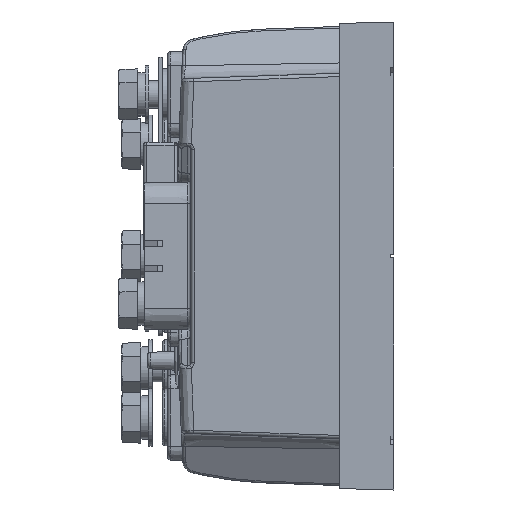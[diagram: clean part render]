
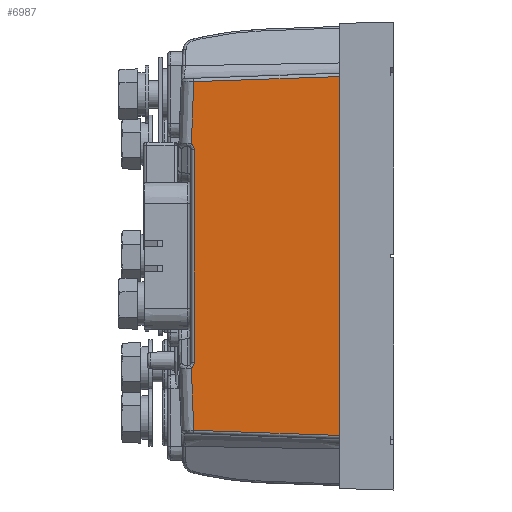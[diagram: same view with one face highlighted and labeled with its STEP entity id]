
A CAD part, left-side view. The second image highlights one B-rep face of the part: STEP entity #6987.
In plain terms, the highlighted planar face has unit normal (-0.999, 0.035, 0).
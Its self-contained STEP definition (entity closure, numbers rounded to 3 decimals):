
#465 = ORIENTED_EDGE ( 'NONE', *, *, #10351, .T. ) ;
#2721 = CARTESIAN_POINT ( 'NONE',  ( -14.599, 17.838, 52.688 ) ) ;
#3780 = EDGE_CURVE ( 'NONE', #12149, #7182, #23563, .T. ) ;
#4152 = LINE ( 'NONE', #17351, #22372 ) ;
#4421 = DIRECTION ( 'NONE',  ( 0., 0., 1. ) ) ;
#4553 = CARTESIAN_POINT ( 'NONE',  ( -13.17, 58.776, -51.255 ) ) ;
#4626 = EDGE_CURVE ( 'NONE', #22957, #12149, #46223, .T. ) ;
#4707 = CARTESIAN_POINT ( 'NONE',  ( -13.17, 58.776, 51.258 ) ) ;
#5673 = CARTESIAN_POINT ( 'NONE',  ( -13.146, 59.457, 32.859 ) ) ;
#6009 =( BOUNDED_CURVE ( )  B_SPLINE_CURVE ( 3, ( #5673, #20330, #20169, #41967 ),
 .UNSPECIFIED., .F., .F. ) 
 B_SPLINE_CURVE_WITH_KNOTS ( ( 4, 4 ),
 ( 3.652, 4.594 ),
 .UNSPECIFIED. ) 
 CURVE ( )  GEOMETRIC_REPRESENTATION_ITEM ( )  RATIONAL_B_SPLINE_CURVE ( ( 1., 0.928, 0.928, 1. ) ) 
 REPRESENTATION_ITEM ( '' )  );
#6359 = VERTEX_POINT ( 'NONE', #29432 ) ;
#6987 = ADVANCED_FACE ( 'NONE', ( #14014 ), #32542, .T. ) ;
#7092 = CARTESIAN_POINT ( 'NONE',  ( -14.663, 16., 0.002 ) ) ;
#7182 = VERTEX_POINT ( 'NONE', #19677 ) ;
#7268 = EDGE_CURVE ( 'NONE', #30345, #28872, #21418, .T. ) ;
#8133 = CARTESIAN_POINT ( 'NONE',  ( -13.17, 58.776, -51.255 ) ) ;
#8227 = CARTESIAN_POINT ( 'NONE',  ( -13.146, 59.457, -32.856 ) ) ;
#8391 = CARTESIAN_POINT ( 'NONE',  ( -13.152, 59.28, -38.991 ) ) ;
#8691 = VECTOR ( 'NONE', #24055, 1000. ) ;
#10153 = EDGE_CURVE ( 'NONE', #7182, #16612, #6009, .T. ) ;
#10162 = CARTESIAN_POINT ( 'NONE',  ( -13.164, 58.931, -32.461 ) ) ;
#10351 = EDGE_CURVE ( 'NONE', #6359, #22957, #33681, .T. ) ;
#12149 = VERTEX_POINT ( 'NONE', #4707 ) ;
#13817 = CARTESIAN_POINT ( 'NONE',  ( -13.17, 58.776, 51.258 ) ) ;
#14014 = FACE_OUTER_BOUND ( 'NONE', #20621, .T. ) ;
#14170 = DIRECTION ( 'NONE',  ( -0.035, -0.999, -0.035 ) ) ;
#16612 = VERTEX_POINT ( 'NONE', #28418 ) ;
#17351 = CARTESIAN_POINT ( 'NONE',  ( -14.665, 15.965, -52.75 ) ) ;
#17929 = DIRECTION ( 'NONE',  ( -0.035, -0.999, 0. ) ) ;
#18474 = ORIENTED_EDGE ( 'NONE', *, *, #3780, .T. ) ;
#19677 = CARTESIAN_POINT ( 'NONE',  ( -13.146, 59.457, 32.859 ) ) ;
#20169 = CARTESIAN_POINT ( 'NONE',  ( -13.175, 58.635, 31.859 ) ) ;
#20330 = CARTESIAN_POINT ( 'NONE',  ( -13.164, 58.931, 32.464 ) ) ;
#20621 = EDGE_LOOP ( 'NONE', ( #18474, #28219, #43759, #38932, #29152, #46241, #465, #33108 ) ) ;
#20979 = CARTESIAN_POINT ( 'NONE',  ( -13.175, 58.635, -31.175 ) ) ;
#21418 =( BOUNDED_CURVE ( )  B_SPLINE_CURVE ( 3, ( #8227, #8391, #22849, #4553 ),
 .UNSPECIFIED., .F., .T. ) 
 B_SPLINE_CURVE_WITH_KNOTS ( ( 4, 4 ),
 ( 3.171, 3.187 ),
 .UNSPECIFIED. ) 
 CURVE ( )  GEOMETRIC_REPRESENTATION_ITEM ( )  RATIONAL_B_SPLINE_CURVE ( ( 1., 1., 1., 1. ) ) 
 REPRESENTATION_ITEM ( '' )  );
#21486 = EDGE_CURVE ( 'NONE', #16612, #38394, #22767, .T. ) ;
#22372 = VECTOR ( 'NONE', #14170, 1000. ) ;
#22767 = LINE ( 'NONE', #42462, #31289 ) ;
#22849 = CARTESIAN_POINT ( 'NONE',  ( -13.16, 59.053, -45.124 ) ) ;
#22957 = VERTEX_POINT ( 'NONE', #26338 ) ;
#23308 =( BOUNDED_CURVE ( )  B_SPLINE_CURVE ( 3, ( #20979, #28297, #10162, #35588 ),
 .UNSPECIFIED., .F., .F. ) 
 B_SPLINE_CURVE_WITH_KNOTS ( ( 4, 4 ),
 ( 4.831, 5.773 ),
 .UNSPECIFIED. ) 
 CURVE ( )  GEOMETRIC_REPRESENTATION_ITEM ( )  RATIONAL_B_SPLINE_CURVE ( ( 1., 0.928, 0.928, 1. ) ) 
 REPRESENTATION_ITEM ( '' )  );
#23520 = CARTESIAN_POINT ( 'NONE',  ( -13.175, 58.635, -31.175 ) ) ;
#23563 =( BOUNDED_CURVE ( )  B_SPLINE_CURVE ( 3, ( #13817, #42912, #39265, #35590 ),
 .UNSPECIFIED., .F., .T. ) 
 B_SPLINE_CURVE_WITH_KNOTS ( ( 4, 4 ),
 ( 3.096, 3.113 ),
 .UNSPECIFIED. ) 
 CURVE ( )  GEOMETRIC_REPRESENTATION_ITEM ( )  RATIONAL_B_SPLINE_CURVE ( ( 1., 1., 1., 1. ) ) 
 REPRESENTATION_ITEM ( '' )  );
#24055 = DIRECTION ( 'NONE',  ( 0.035, 0.999, -0.035 ) ) ;
#24334 = DIRECTION ( 'NONE',  ( 0., 0., -1. ) ) ;
#26338 = CARTESIAN_POINT ( 'NONE',  ( -14.663, 16., 52.752 ) ) ;
#28219 = ORIENTED_EDGE ( 'NONE', *, *, #10153, .T. ) ;
#28297 = CARTESIAN_POINT ( 'NONE',  ( -13.175, 58.635, -31.856 ) ) ;
#28418 = CARTESIAN_POINT ( 'NONE',  ( -13.175, 58.635, 31.178 ) ) ;
#28872 = VERTEX_POINT ( 'NONE', #8133 ) ;
#29152 = ORIENTED_EDGE ( 'NONE', *, *, #7268, .T. ) ;
#29432 = CARTESIAN_POINT ( 'NONE',  ( -14.663, 16., -52.749 ) ) ;
#30345 = VERTEX_POINT ( 'NONE', #36789 ) ;
#31289 = VECTOR ( 'NONE', #24334, 1000. ) ;
#32542 = PLANE ( 'NONE',  #42403 ) ;
#33108 = ORIENTED_EDGE ( 'NONE', *, *, #4626, .T. ) ;
#33681 = LINE ( 'NONE', #36856, #43323 ) ;
#35588 = CARTESIAN_POINT ( 'NONE',  ( -13.146, 59.457, -32.856 ) ) ;
#35590 = CARTESIAN_POINT ( 'NONE',  ( -13.146, 59.457, 32.859 ) ) ;
#35830 = EDGE_CURVE ( 'NONE', #38394, #30345, #23308, .T. ) ;
#36789 = CARTESIAN_POINT ( 'NONE',  ( -13.146, 59.457, -32.856 ) ) ;
#36856 = CARTESIAN_POINT ( 'NONE',  ( -14.663, 16., 0.002 ) ) ;
#38394 = VERTEX_POINT ( 'NONE', #23520 ) ;
#38932 = ORIENTED_EDGE ( 'NONE', *, *, #35830, .T. ) ;
#38978 = EDGE_CURVE ( 'NONE', #28872, #6359, #4152, .T. ) ;
#39265 = CARTESIAN_POINT ( 'NONE',  ( -13.152, 59.28, 38.994 ) ) ;
#41967 = CARTESIAN_POINT ( 'NONE',  ( -13.175, 58.635, 31.178 ) ) ;
#42403 = AXIS2_PLACEMENT_3D ( 'NONE', #7092, #43351, #17929 ) ;
#42462 = CARTESIAN_POINT ( 'NONE',  ( -13.175, 58.635, -27.49 ) ) ;
#42912 = CARTESIAN_POINT ( 'NONE',  ( -13.16, 59.053, 45.127 ) ) ;
#43323 = VECTOR ( 'NONE', #4421, 1000. ) ;
#43351 = DIRECTION ( 'NONE',  ( -0.999, 0.035, 0. ) ) ;
#43759 = ORIENTED_EDGE ( 'NONE', *, *, #21486, .T. ) ;
#46223 = LINE ( 'NONE', #2721, #8691 ) ;
#46241 = ORIENTED_EDGE ( 'NONE', *, *, #38978, .T. ) ;
